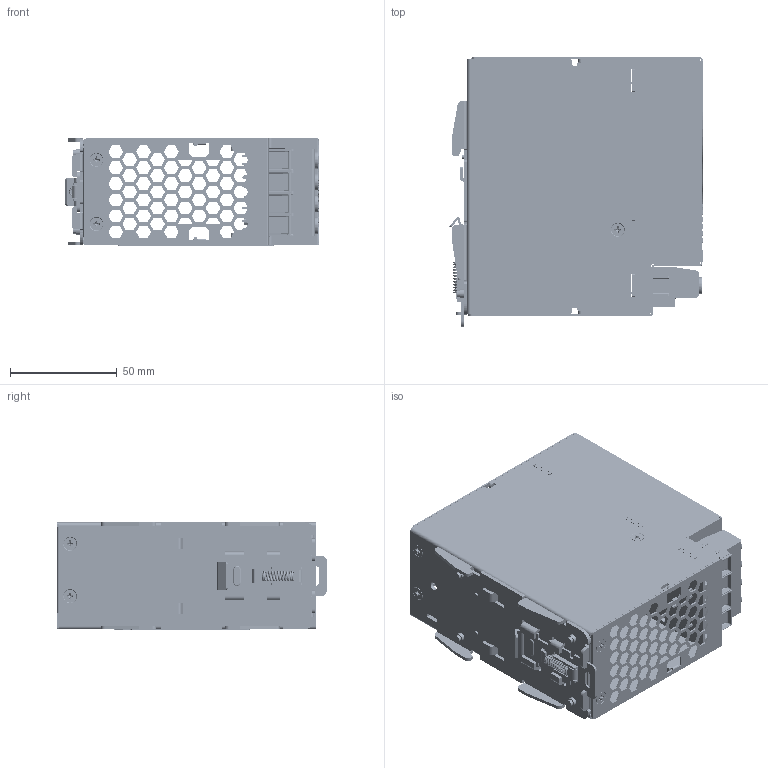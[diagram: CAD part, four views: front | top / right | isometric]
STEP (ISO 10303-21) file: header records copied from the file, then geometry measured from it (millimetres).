
FILE_DESCRIPTION((''),'2;1');
FILE_NAME('DRU-24V40ABN_ASM','2014-04-23T',('Warud'),(''),'PRO/ENGINEER BY PARAMETRIC TECHNOLOGY CORPORATION, 2010180','PRO/ENGINEER BY PARAMETRIC TECHNOLOGY CORPORATION, 2010180','');
FILE_SCHEMA(('CONFIG_CONTROL_DESIGN','SHAPE_APPEARANCE_LAYERS_GROUPS'));
Products named in the file (27): 330317820000; 330317800000; 326356960202; 326838880000; 346130450102; 346008810000; 346209430000; 390017750000_ASM; 2958064503_PWB; 307307257W_A_BODY; 307307257W_A_SCREW; 307307257W_A_PIN; 307307257W_ASM; 307345247W_A_BASE; 307345247W_A_BODY; 307345247W_A_SCREW; 307345247W_A_P1-1; 307345247W_A_P1-2; 307345247W_A_P1_ASM; 307345247W_A_P2-1; 307345247W_A_P2-2; 307345247W_A_P2_ASM; 307345247W_ASM; 325209550000; ASSY_PWB_DRU-24V40ABN_ASM; 3105320000; DRU-24V40ABN_ASM
Assembly tree (56 placements, depth 5):
  DRU-24V40ABN_ASM
    330317820000
    330317800000
    326356960202
    326838880000
    390017750000_ASM
      346130450102
      346008810000
      346209430000
    ASSY_PWB_DRU-24V40ABN_ASM
      2958064503_PWB
      307307257W_ASM
        307307257W_A_BODY
        307307257W_A_SCREW  x6
        307307257W_A_PIN  x6
      307345247W_ASM
        307345247W_A_BASE  x4
        307345247W_A_BODY  x4
        307345247W_A_SCREW  x4
        307345247W_A_P1_ASM  x2
          307345247W_A_P1-1
          307345247W_A_P1-2
        307345247W_A_P2_ASM  x2
          307345247W_A_P2-1
          307345247W_A_P2-2
      325209550000
    3105320000  x10
Bounding box: 118.47 x 126 x 50.08 mm (x, y, z)
Volume: 104670.4 mm3; surface area: 156332.7 mm2
Topology: 67 solids, 68 shells, 8394 faces, 22535 edges, 14589 vertices
Faces by surface type: plane 5049, extrusion 1612, cylinder 1249, torus 202, bspline 154, cone 112, sphere 16
Entity records: 238355 total; most frequent: CARTESIAN_POINT 65755, ORIENTED_EDGE 32622, DIRECTION 24666, EDGE_CURVE 16311, VECTOR 12976, LINE 11364, VERTEX_POINT 10685, PRESENTATION_STYLE_ASSIGNMENT 8022
